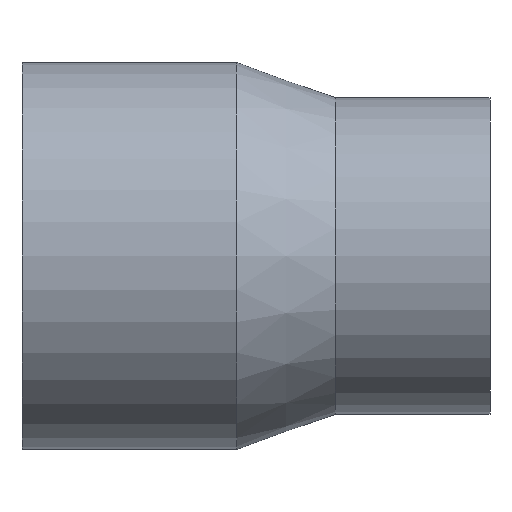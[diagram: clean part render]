
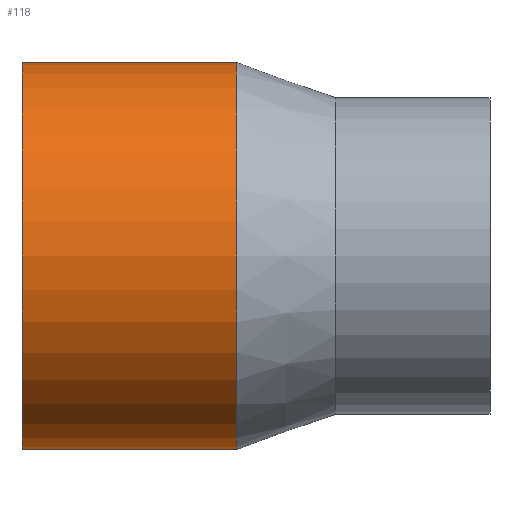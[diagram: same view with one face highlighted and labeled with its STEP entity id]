
A CAD part, front view. The second image highlights one B-rep face of the part: STEP entity #118.
In plain terms, the highlighted cylindrical face has radius 55 mm (diameter 110 mm), a full revolution.
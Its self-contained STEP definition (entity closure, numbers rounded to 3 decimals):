
#18=CYLINDRICAL_SURFACE('',#134,55.);
#25=FACE_BOUND('',#49,.T.);
#35=FACE_OUTER_BOUND('',#48,.T.);
#48=EDGE_LOOP('',(#98));
#49=EDGE_LOOP('',(#99));
#65=CIRCLE('',#133,55.);
#66=CIRCLE('',#135,55.);
#75=VERTEX_POINT('',#199);
#76=VERTEX_POINT('',#202);
#85=EDGE_CURVE('',#75,#75,#65,.T.);
#86=EDGE_CURVE('',#76,#76,#66,.T.);
#98=ORIENTED_EDGE('',*,*,#85,.T.);
#99=ORIENTED_EDGE('',*,*,#86,.F.);
#118=ADVANCED_FACE('',(#35,#25),#18,.T.);
#133=AXIS2_PLACEMENT_3D('',#200,#161,#162);
#134=AXIS2_PLACEMENT_3D('',#201,#163,#164);
#135=AXIS2_PLACEMENT_3D('',#203,#165,#166);
#161=DIRECTION('center_axis',(-1.,0.,0.));
#162=DIRECTION('ref_axis',(0.,0.,1.));
#163=DIRECTION('center_axis',(-1.,0.,0.));
#164=DIRECTION('ref_axis',(0.,-1.,0.));
#165=DIRECTION('center_axis',(-1.,0.,0.));
#166=DIRECTION('ref_axis',(0.,0.,1.));
#199=CARTESIAN_POINT('',(-5.5,-55.,0.));
#200=CARTESIAN_POINT('Origin',(-5.5,0.,0.));
#201=CARTESIAN_POINT('Origin',(-36.,0.,0.));
#202=CARTESIAN_POINT('',(-66.5,-55.,0.));
#203=CARTESIAN_POINT('Origin',(-66.5,0.,0.));
